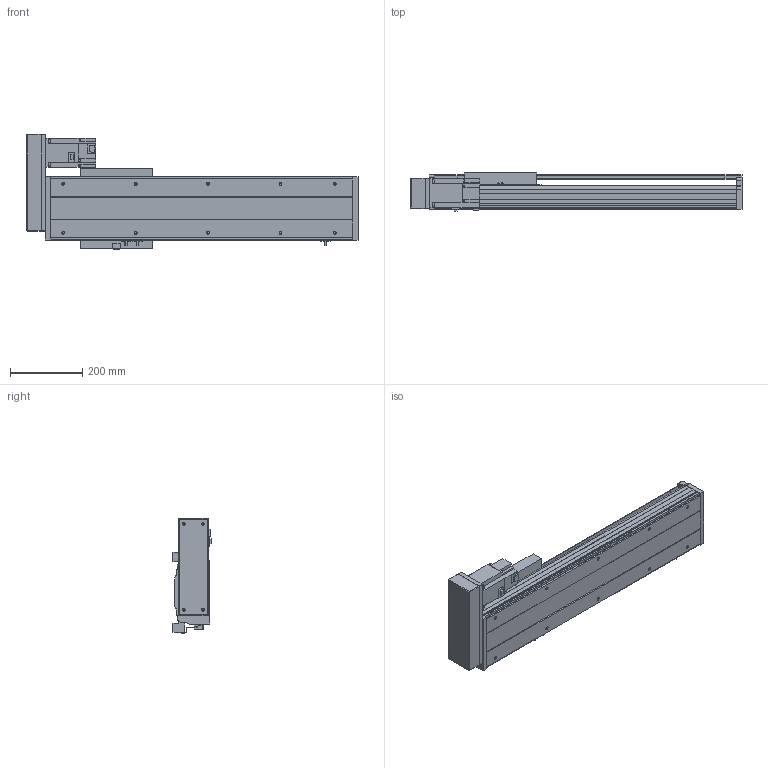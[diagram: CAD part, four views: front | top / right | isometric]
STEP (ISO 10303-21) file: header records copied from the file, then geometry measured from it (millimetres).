
FILE_DESCRIPTION( ( 'STEP AP214' ), '1' );
FILE_NAME( 'x:/temp/worker_27/temp/exporttempdir_6708_442_TwEjh/format_0/PSS200-L10-S500-BL-T75-C1-N(0).stp', '2022-06-06T02:49:56', ( 'License CC BY-ND 4.0' ), ( 'CADENAS' ), ' ', 'PARTsolutions', ' ' );
FILE_SCHEMA( ( 'AUTOMOTIVE_DESIGN { 1 0 10303 214 1 1 1 1 }' ) );
Length unit declared in the file: millimetre
Products named in the file (8): PSS200-L10-S500-BL-T75-C1-N(0); _PSS200-S500-BL-C1-N_body; _PSS200-N_Q; _PSS200-BL-C1-N_sl; _PSS200-N_sensor; _PSS200BL-N_h; _T75-p1; _PSS200-S500-BL-N_S
Assembly tree (9 placements, depth 2):
  PSS200-L10-S500-BL-T75-C1-N(0)
    _PSS200-S500-BL-C1-N_body
    _PSS200-N_Q
    _PSS200-BL-C1-N_sl
    _PSS200-N_sensor  x3
    _PSS200BL-N_h
    _T75-p1
    _PSS200-S500-BL-N_S
Bounding box: 916.85 x 105.3 x 317.86 mm (x, y, z)
Volume: 7192844.1 mm3; surface area: 1537721.2 mm2
Topology: 9 solids, 9 shells, 600 faces, 1597 edges, 1054 vertices
Faces by surface type: plane 466, cylinder 112, cone 18, sphere 4
Full cylindrical faces by diameter (mm): 4 x2, 4.5 x4, 6 x7, 6.647 x14, 7.4 x4, 8 x8, 10 x6, 25 x1, 40 x1, 67 x1
Entity records: 20930 total; most frequent: CARTESIAN_POINT 2859, DIRECTION 2752, ORIENTED_EDGE 2726, EDGE_CURVE 1363, LINE 1090, VECTOR 1090, VERTEX_POINT 938, AXIS2_PLACEMENT_3D 831
